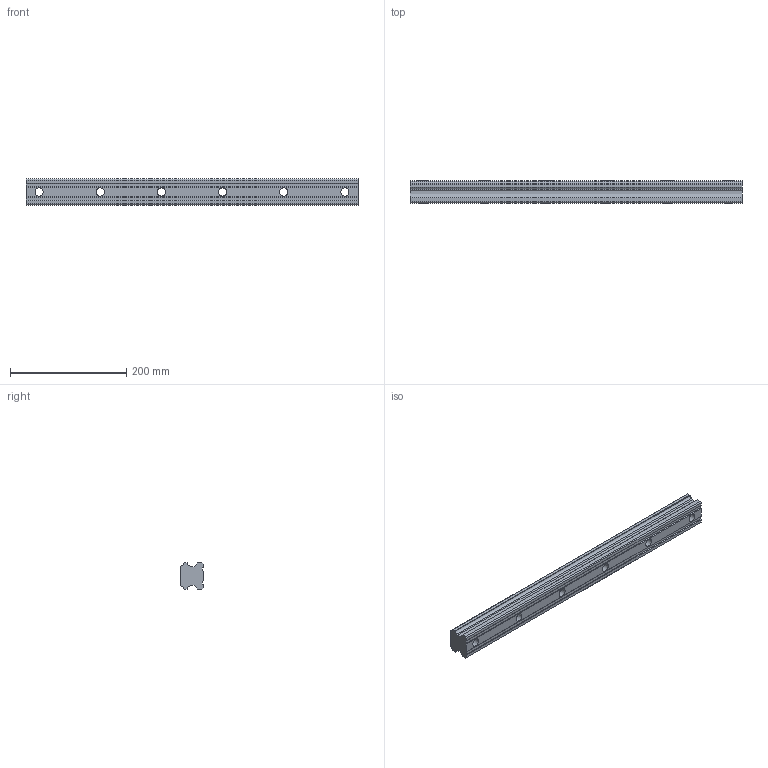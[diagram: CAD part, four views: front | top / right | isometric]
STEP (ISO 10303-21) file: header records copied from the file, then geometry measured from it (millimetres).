
FILE_DESCRIPTION(/* description */ ('STEP AP203'),/* implementation_level */ '2;1');
FILE_NAME(/* name */ 'HSR45-570L(GK) RAIL(22.5)',/* time_stamp */ '2024-05-21T04:45:01+02:00',/* author */ ('License CC BY-ND 4.0'),/* organization */ ('CADENAS'),/* preprocessor_version */ 'ST-DEVELOPER v19.3',/* originating_system */ 'PARTsolutions',/* authorisation */ ' ');
FILE_SCHEMA (('CONFIG_CONTROL_DESIGN'));
Length unit declared in the file: millimetre
Products named in the file (1): HSR45-570L(GK) RAIL(22.5)
Bounding box: 570 x 38 x 45 mm (x, y, z)
Volume: 797638.9 mm3; surface area: 111148 mm2
Topology: 1 solids, 1 shells, 52 faces, 132 edges, 88 vertices
Faces by surface type: plane 36, cylinder 16
Full cylindrical faces by diameter (mm): 14 x6, 20 x6
Entity records: 1562 total; most frequent: CARTESIAN_POINT 261, DIRECTION 258, ORIENTED_EDGE 240, EDGE_CURVE 120, VERTEX_POINT 88, LINE 88, VECTOR 88, AXIS2_PLACEMENT_3D 85
